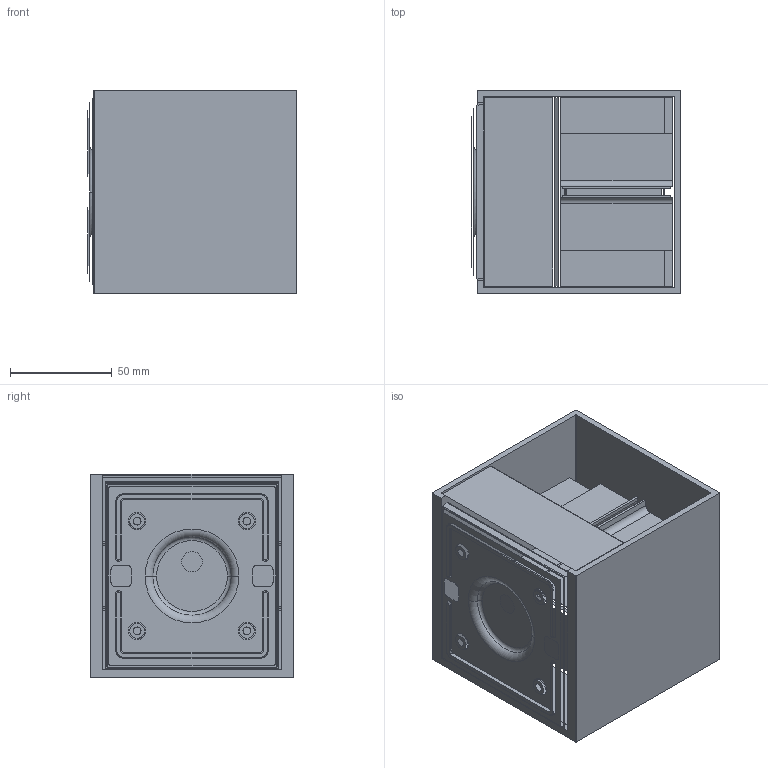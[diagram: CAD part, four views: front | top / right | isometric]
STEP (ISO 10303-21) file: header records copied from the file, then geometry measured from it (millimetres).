
FILE_DESCRIPTION((''),'2;1');
FILE_NAME('PRT0001','2025-07-22T16:57:33',('Piccioli'),(''),'CREO PARAMETRIC BY PTC INC, 2025010','CREO PARAMETRIC BY PTC INC, 2025010','');
FILE_SCHEMA(('CONFIG_CONTROL_DESIGN'));
Length unit declared in the file: millimetre
Products named in the file (1): PRT0001
Bounding box: 103.1 x 100 x 100 mm (x, y, z)
Surface area: 95468.2 mm2 (no closed solid volume)
Topology: 0 solids, 28 shells, 71 faces, 377 edges, 330 vertices
Faces by surface type: plane 46, cylinder 13, torus 12
Entity records: 4125 total; most frequent: CARTESIAN_POINT 1205, DIRECTION 605, ORIENTED_EDGE 442, EDGE_CURVE 377, VERTEX_POINT 330, VECTOR 211, LINE 211, AXIS2_PLACEMENT_3D 197
